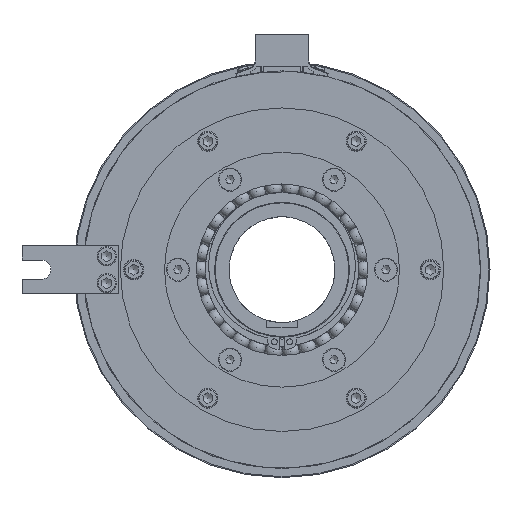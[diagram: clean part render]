
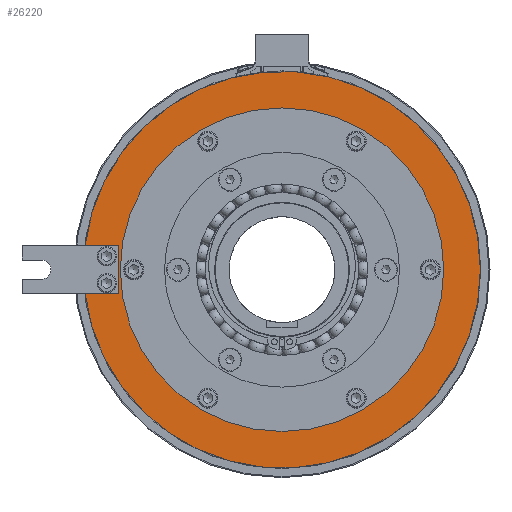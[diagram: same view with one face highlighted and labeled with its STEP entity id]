
A CAD part, left-side view. The second image highlights one B-rep face of the part: STEP entity #26220.
In plain terms, the highlighted planar face has unit normal (-1, 0, 0).
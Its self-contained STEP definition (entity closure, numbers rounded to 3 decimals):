
#924=PLANE('',#28781);
#1300=FACE_BOUND('',#4440,.T.);
#2919=FACE_OUTER_BOUND('',#4439,.T.);
#4439=EDGE_LOOP('',(#20570,#20571,#20572,#20573,#20574,#20575));
#4440=EDGE_LOOP('',(#20576,#20577));
#5163=CIRCLE('',#26770,103.);
#5166=CIRCLE('',#26773,103.);
#6265=CIRCLE('',#28686,103.);
#6307=CIRCLE('',#28782,84.);
#6308=CIRCLE('',#28783,84.);
#7965=LINE('',#43776,#9179);
#7968=LINE('',#43782,#9182);
#7971=LINE('',#43787,#9185);
#9179=VECTOR('',#34992,10.);
#9182=VECTOR('',#34997,10.);
#9185=VECTOR('',#35002,10.);
#9544=VERTEX_POINT('',#38033);
#9549=VERTEX_POINT('',#38043);
#9550=VERTEX_POINT('',#38045);
#9552=VERTEX_POINT('',#38049);
#10990=VERTEX_POINT('',#43775);
#10992=VERTEX_POINT('',#43781);
#10994=VERTEX_POINT('',#43790);
#10995=VERTEX_POINT('',#43791);
#12234=EDGE_CURVE('',#9550,#9549,#5163,.T.);
#12237=EDGE_CURVE('',#9544,#9552,#5166,.T.);
#14321=EDGE_CURVE('',#9549,#9544,#6265,.T.);
#14466=EDGE_CURVE('',#10990,#9550,#7965,.T.);
#14469=EDGE_CURVE('',#10992,#10990,#7968,.T.);
#14472=EDGE_CURVE('',#9552,#10992,#7971,.T.);
#14474=EDGE_CURVE('',#10994,#10995,#6307,.T.);
#14475=EDGE_CURVE('',#10995,#10994,#6308,.T.);
#20570=ORIENTED_EDGE('',*,*,#14472,.T.);
#20571=ORIENTED_EDGE('',*,*,#14469,.T.);
#20572=ORIENTED_EDGE('',*,*,#14466,.T.);
#20573=ORIENTED_EDGE('',*,*,#12234,.T.);
#20574=ORIENTED_EDGE('',*,*,#14321,.T.);
#20575=ORIENTED_EDGE('',*,*,#12237,.T.);
#20576=ORIENTED_EDGE('',*,*,#14474,.T.);
#20577=ORIENTED_EDGE('',*,*,#14475,.T.);
#26220=ADVANCED_FACE('',(#2919,#1300),#924,.T.);
#26770=AXIS2_PLACEMENT_3D('',#38046,#30128,#30129);
#26773=AXIS2_PLACEMENT_3D('',#38051,#30134,#30135);
#28686=AXIS2_PLACEMENT_3D('',#43386,#34733,#34734);
#28781=AXIS2_PLACEMENT_3D('',#43789,#35004,#35005);
#28782=AXIS2_PLACEMENT_3D('',#43792,#35006,#35007);
#28783=AXIS2_PLACEMENT_3D('',#43793,#35008,#35009);
#30128=DIRECTION('center_axis',(-1.,0.,0.));
#30129=DIRECTION('ref_axis',(0.,1.,0.));
#30134=DIRECTION('center_axis',(-1.,0.,0.));
#30135=DIRECTION('ref_axis',(0.,1.,0.));
#34733=DIRECTION('center_axis',(-1.,0.,0.));
#34734=DIRECTION('ref_axis',(0.,1.,0.));
#34992=DIRECTION('',(0.,1.,0.));
#34997=DIRECTION('',(0.,0.,-1.));
#35002=DIRECTION('',(0.,-1.,0.));
#35004=DIRECTION('center_axis',(-1.,0.,0.));
#35005=DIRECTION('ref_axis',(0.,0.,
1.));
#35006=DIRECTION('center_axis',(1.,0.,0.));
#35007=DIRECTION('ref_axis',(0.,1.,0.));
#35008=DIRECTION('center_axis',(1.,0.,0.));
#35009=DIRECTION('ref_axis',(0.,1.,0.));
#38033=CARTESIAN_POINT('',(-15.5,9.681,102.544));
#38043=CARTESIAN_POINT('',(-15.5,-103.,0.));
#38045=CARTESIAN_POINT('',(-15.5,102.239,-12.5));
#38046=CARTESIAN_POINT('Origin',(-15.5,0.,0.));
#38049=CARTESIAN_POINT('',(-15.5,102.239,12.5));
#38051=CARTESIAN_POINT('Origin',(-15.5,0.,0.));
#43386=CARTESIAN_POINT('Origin',(-15.5,0.,0.));
#43775=CARTESIAN_POINT('',(-15.5,85.,-12.5));
#43776=CARTESIAN_POINT('',(-15.5,111.25,-12.5));
#43781=CARTESIAN_POINT('',(-15.5,85.,12.5));
#43782=CARTESIAN_POINT('',(-15.5,85.,-6.25));
#43787=CARTESIAN_POINT('',(-15.5,86.25,12.5));
#43789=CARTESIAN_POINT('Origin',(-15.5,87.5,0.));
#43790=CARTESIAN_POINT('',(-15.5,84.,0.));
#43791=CARTESIAN_POINT('',(-15.5,-84.,0.));
#43792=CARTESIAN_POINT('Origin',(-15.5,0.,0.));
#43793=CARTESIAN_POINT('Origin',(-15.5,0.,0.));
